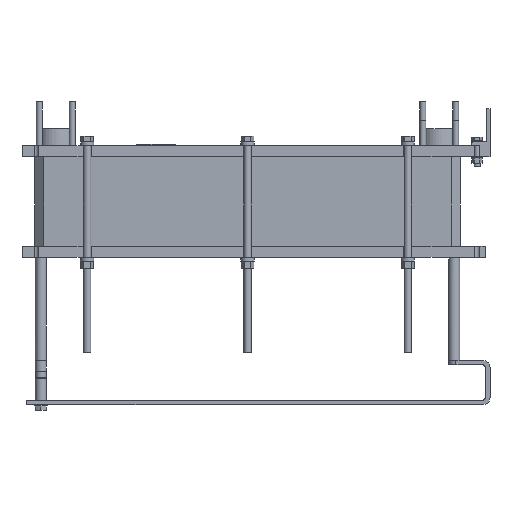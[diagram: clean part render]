
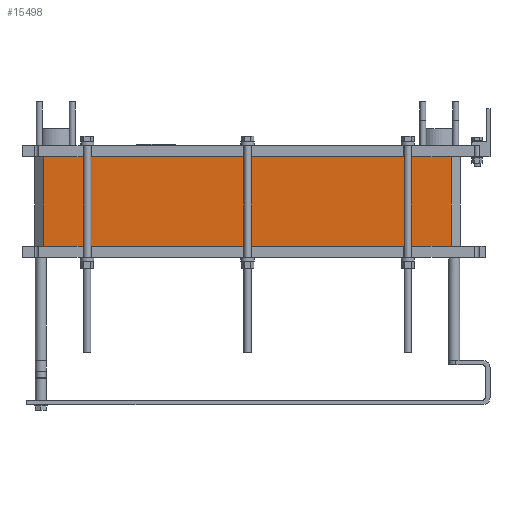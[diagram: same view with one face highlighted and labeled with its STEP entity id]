
A CAD part, left-side view. The second image highlights one B-rep face of the part: STEP entity #15498.
In plain terms, the highlighted planar face has unit normal (-1, 0, 0).
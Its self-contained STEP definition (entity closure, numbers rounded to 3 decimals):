
#1466=LINE('',#25351,#3061);
#1504=LINE('',#25451,#3099);
#1581=LINE('',#25620,#3176);
#1582=LINE('',#25622,#3177);
#3061=VECTOR('',#20768,1100.);
#3099=VECTOR('',#20836,1100.);
#3176=VECTOR('',#21073,242.);
#3177=VECTOR('',#21076,242.);
#3778=PLANE('',#16875);
#4825=FACE_OUTER_BOUND('',#5876,.T.);
#5876=EDGE_LOOP('',(#14021,#14022,#14023,#14024));
#7881=VERTEX_POINT('',#25348);
#7882=VERTEX_POINT('',#25350);
#7928=VERTEX_POINT('',#25448);
#7929=VERTEX_POINT('',#25450);
#9875=EDGE_CURVE('',#7881,#7882,#1466,.T.);
#9923=EDGE_CURVE('',#7929,#7928,#1504,.T.);
#10006=EDGE_CURVE('',#7881,#7929,#1581,.T.);
#10007=EDGE_CURVE('',#7882,#7928,#1582,.T.);
#14021=ORIENTED_EDGE('',*,*,#9923,.T.);
#14022=ORIENTED_EDGE('',*,*,#10007,.F.);
#14023=ORIENTED_EDGE('',*,*,#9875,.F.);
#14024=ORIENTED_EDGE('',*,*,#10006,.T.);
#15498=ADVANCED_FACE('',(#4825),#3778,.T.);
#16875=AXIS2_PLACEMENT_3D('',#25621,#21074,#21075);
#20768=DIRECTION('',(0.,-1.,0.));
#20836=DIRECTION('',(0.,-1.,0.));
#21073=DIRECTION('',(0.,0.,-1.));
#21074=DIRECTION('center_axis',(-1.,0.,0.));
#21075=DIRECTION('ref_axis',(0.,0.,1.));
#21076=DIRECTION('',(0.,0.,-1.));
#25348=CARTESIAN_POINT('',(-125.,550.,0.));
#25350=CARTESIAN_POINT('',(-125.,-550.,0.));
#25351=CARTESIAN_POINT('',(-125.,264.791,0.));
#25448=CARTESIAN_POINT('',(-125.,-550.,-242.));
#25450=CARTESIAN_POINT('',(-125.,550.,-242.));
#25451=CARTESIAN_POINT('',(-125.,575.,-242.));
#25620=CARTESIAN_POINT('',(-125.,550.,0.));
#25621=CARTESIAN_POINT('Origin',(-125.,550.,0.));
#25622=CARTESIAN_POINT('',(-125.,-550.,0.));
